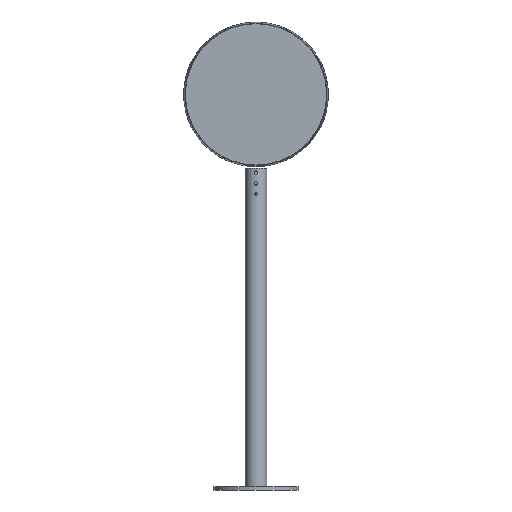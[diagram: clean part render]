
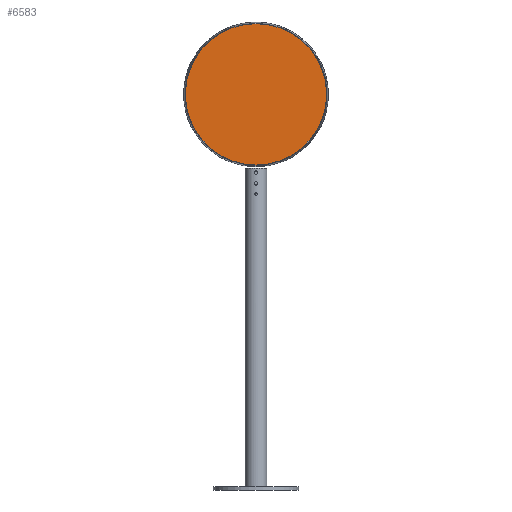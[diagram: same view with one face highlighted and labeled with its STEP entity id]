
A CAD part, front view. The second image highlights one B-rep face of the part: STEP entity #6583.
In plain terms, the highlighted planar face has unit normal (0, -1, 0).
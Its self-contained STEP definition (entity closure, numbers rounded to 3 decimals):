
#5906=CARTESIAN_POINT('',(0.,0.,0.));
#5907=DIRECTION('',(0.,-1.,0.));
#5908=DIRECTION('',(0.,0.,1.));
#5909=AXIS2_PLACEMENT_3D('',#5906,#5907,#5908);
#5911=CARTESIAN_POINT('',(0.,0.,0.));
#5912=DIRECTION('',(0.,-1.,0.));
#5913=DIRECTION('',(0.,0.,-1.));
#5914=AXIS2_PLACEMENT_3D('',#5911,#5912,#5913);
#6532=CARTESIAN_POINT('',(0.,0.,65.903));
#6533=CARTESIAN_POINT('',(0.,0.,-65.903));
#6534=VERTEX_POINT('',#6532);
#6535=VERTEX_POINT('',#6533);
#6572=CARTESIAN_POINT('',(0.,0.,0.));
#6573=DIRECTION('',(0.,1.,0.));
#6574=DIRECTION('',(0.,0.,-1.));
#6575=AXIS2_PLACEMENT_3D('',#6572,#6573,#6574);
#6576=PLANE('',#6575);
#6578=ORIENTED_EDGE('',*,*,#6577,.F.);
#6580=ORIENTED_EDGE('',*,*,#6579,.F.);
#6581=EDGE_LOOP('',(#6578,#6580));
#6582=FACE_OUTER_BOUND('',#6581,.F.);
#6583=ADVANCED_FACE('',(#6582),#6576,.F.);
#5910=CIRCLE('',#5909,65.903);
#5915=CIRCLE('',#5914,65.903);
#6577=EDGE_CURVE('',#6534,#6535,#5910,.T.);
#6579=EDGE_CURVE('',#6535,#6534,#5915,.T.);
